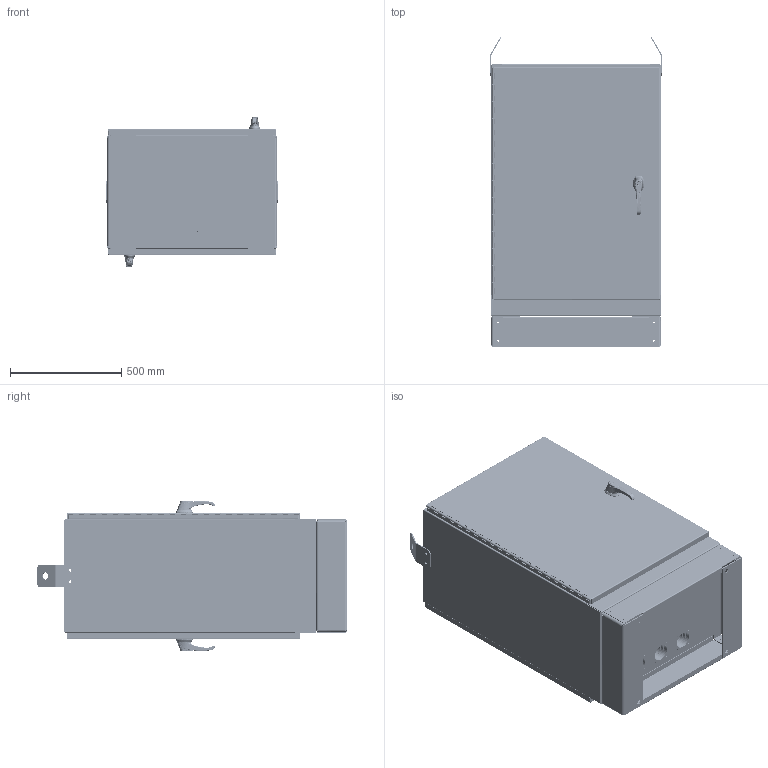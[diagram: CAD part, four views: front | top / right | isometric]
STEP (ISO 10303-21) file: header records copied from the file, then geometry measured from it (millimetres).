
FILE_DESCRIPTION (( 'STEP AP203' ), '1' );
FILE_NAME ('t503020fttxda.STEP', '2010-11-30T17:23:48', ( 'Hoffman User' ), ( 'Hoffman Enclosures' ), 'SwSTEP 2.0', 'SolidWorks 2009', '' );
FILE_SCHEMA (( 'CONFIG_CONTROL_DESIGN' ));
Products named in the file (48): 89049941_89049941; 87920584_87920584; 89049942_89049942; 89050095; 89049937_89049937; 89049944_89049944; 89049936_89049936; 87560090; 26274010_26274010; 26273010_26273010; 89048720; 87793415_87793415; 22131045; 87794148; 87920588_87920588; 46221001_46221001; 87920594_87920594; t503020fttxda; 87920578_87920578; 89049940_89049940; 87920582_87920582; 89049939_89049939; 87920580_87920580; 87920592_87920592; 87920598_87920598; 87920586_87920586; 89050096_89050096; 89049943_89049943; 87578925_87578925; 87920576_87920576; 99404049_99404049; 27301003; 22108007; 30101003; 87560001_Closed; 89048719; 89048722; 87578937_87578937; 87948515_87933843; 26118002_26118002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
Assembly tree (126 placements, depth 5):
  t503020fttxda
    87578937_87578937  x2
      87948515_87933843
    99411366_93825A140  x18
    87920594_87920594  x2
    87544356_87544356  x2
    87793415_87793415  x2
    87920588_87920588  x2
    87560143  x12
    87560141  x3
    89049937_89049937  x2
      87560090
      87560001_Closed
        89048722
          89048720
        89048719
      26274010_26274010
        30101003  x2
        26273010_26273010
      89049936_89049936
        99404049_99404049  x4
        87920576_87920576
        27301003  x2
      22108007
    87920578_87920578
      89049942_89049942
        87920586_87920586
      89049941_89049941
        87920584_87920584
      89050096_89050096  x2
        89049943_89049943
      89049939_89049939
        87920580_87920580
        87920592_87920592
        89050095  x2
        87920598_87920598
      89049940_89049940
        87920598_87920598
        89050095  x2
        87920582_87920582
        87920592_87920592
    46221001_46221001  x4
    89050557
      99404050_99404050  x24
      89049951
    87578925_87578925  x2
    26118002_26118002  x2
    87920596  x2
    22131045  x2
    89049944_89049944  x2
    87794148
Bounding box: 773.33 x 1394.5 x 674.03 mm (x, y, z)
Volume: 19323381.2 mm3; surface area: 12312428.3 mm2
Topology: 141 solids, 141 shells, 15577 faces, 42885 edges, 27814 vertices
Faces by surface type: plane 6522, cylinder 5309, cone 1822, bspline 1590, torus 256, sphere 78
Entity records: 213988 total; most frequent: CARTESIAN_POINT 74125, ORIENTED_EDGE 28356, DIRECTION 26074, EDGE_CURVE 14178, VERTEX_POINT 9269, AXIS2_PLACEMENT_3D 9265, VECTOR 7544, LINE 7544
